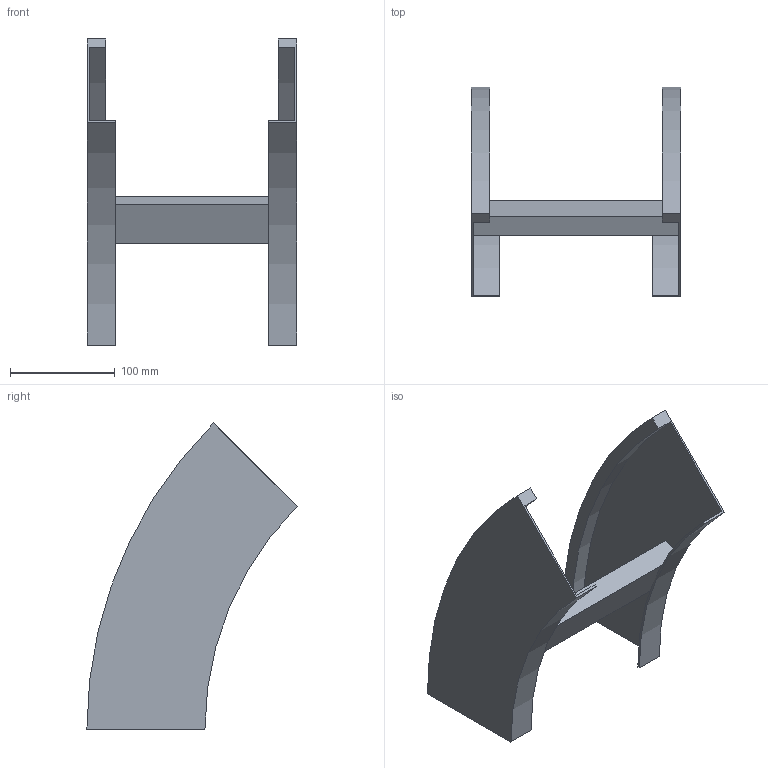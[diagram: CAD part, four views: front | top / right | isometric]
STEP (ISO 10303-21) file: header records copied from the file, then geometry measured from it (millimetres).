
FILE_DESCRIPTION (( 'STEP AP214' ), '1' );
FILE_NAME ('B2_34B3J200.step', '2025-02-21T14:53:42', ( '' ), ( '' ), 'SwSTEP 2.0', 'SolidWorks 2023', '' );
FILE_SCHEMA (( 'AUTOMOTIVE_DESIGN' ));
Length unit declared in the file: millimetre
Products named in the file (3): B2_LONGH.DISCESA_45°_H112.5_R300; B2_34B3J200; TRAVERSINO_200
Assembly tree (3 placements, depth 2):
  B2_34B3J200
    B2_LONGH.DISCESA_45°_H112.5_R300  x2
    TRAVERSINO_200
Bounding box: 200 x 200.37 x 291.68 mm (x, y, z)
Volume: 430907.1 mm3; surface area: 199424.9 mm2
Topology: 3 solids, 3 shells, 26 faces, 60 edges, 40 vertices
Faces by surface type: plane 18, cylinder 8
Entity records: 544 total; most frequent: DIRECTION 88, CARTESIAN_POINT 82, ORIENTED_EDGE 72, EDGE_CURVE 36, AXIS2_PLACEMENT_3D 30, VECTOR 28, LINE 28, VERTEX_POINT 24
